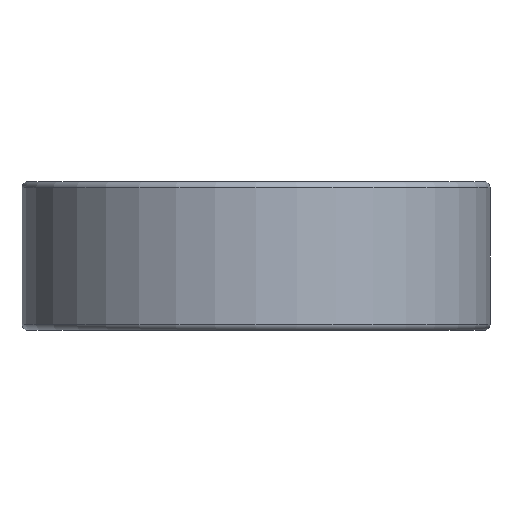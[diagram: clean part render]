
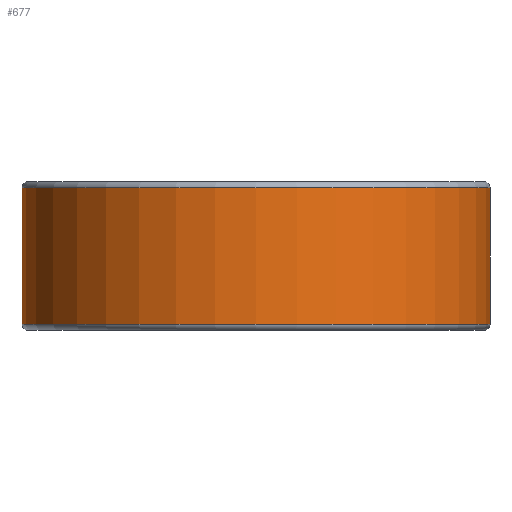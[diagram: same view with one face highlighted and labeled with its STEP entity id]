
A CAD part, front view. The second image highlights one B-rep face of the part: STEP entity #677.
In plain terms, the highlighted cylindrical face has radius 11 mm (diameter 22 mm), a full revolution.
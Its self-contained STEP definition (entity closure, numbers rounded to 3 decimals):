
#104=LINE('',#1029,#110);
#110=VECTOR('',#859,11.);
#116=CYLINDRICAL_SURFACE('',#746,11.);
#127=FACE_OUTER_BOUND('',#161,.T.);
#161=EDGE_LOOP('',(#464,#465,#466,#467,#468,#469));
#211=CIRCLE('',#742,11.);
#212=CIRCLE('',#743,11.);
#215=CIRCLE('',#747,11.);
#216=CIRCLE('',#748,11.);
#259=VERTEX_POINT('',#1018);
#260=VERTEX_POINT('',#1019);
#262=VERTEX_POINT('',#1026);
#263=VERTEX_POINT('',#1027);
#342=EDGE_CURVE('',#259,#260,#211,.T.);
#343=EDGE_CURVE('',#260,#259,#212,.T.);
#346=EDGE_CURVE('',#262,#263,#215,.T.);
#347=EDGE_CURVE('',#262,#260,#104,.T.);
#348=EDGE_CURVE('',#263,#262,#216,.T.);
#464=ORIENTED_EDGE('',*,*,#346,.F.);
#465=ORIENTED_EDGE('',*,*,#347,.T.);
#466=ORIENTED_EDGE('',*,*,#342,.F.);
#467=ORIENTED_EDGE('',*,*,#343,.F.);
#468=ORIENTED_EDGE('',*,*,#347,.F.);
#469=ORIENTED_EDGE('',*,*,#348,.F.);
#677=ADVANCED_FACE('',(#127),#116,.T.);
#742=AXIS2_PLACEMENT_3D('',#1020,#847,#848);
#743=AXIS2_PLACEMENT_3D('',#1021,#849,#850);
#746=AXIS2_PLACEMENT_3D('',#1025,#855,#856);
#747=AXIS2_PLACEMENT_3D('',#1028,#857,#858);
#748=AXIS2_PLACEMENT_3D('',#1030,#860,#861);
#847=DIRECTION('center_axis',(0.,0.,-1.));
#848=DIRECTION('ref_axis',(0.,-1.,0.));
#849=DIRECTION('center_axis',(0.,0.,-1.));
#850=DIRECTION('ref_axis',(0.,-1.,0.));
#855=DIRECTION('center_axis',(0.,0.,1.));
#856=DIRECTION('ref_axis',(0.,1.,0.));
#857=DIRECTION('center_axis',(0.,0.,1.));
#858=DIRECTION('ref_axis',(0.,-1.,0.));
#859=DIRECTION('',(0.,0.,-1.));
#860=DIRECTION('center_axis',(0.,0.,1.));
#861=DIRECTION('ref_axis',(0.,-1.,0.));
#1018=CARTESIAN_POINT('',(-11.,0.,0.3));
#1019=CARTESIAN_POINT('',(0.,-11.,0.3));
#1020=CARTESIAN_POINT('Origin',(0.,0.,0.3));
#1021=CARTESIAN_POINT('Origin',(0.,0.,0.3));
#1025=CARTESIAN_POINT('Origin',(0.,0.,3.5));
#1026=CARTESIAN_POINT('',(0.,-11.,6.7));
#1027=CARTESIAN_POINT('',(-11.,0.,6.7));
#1028=CARTESIAN_POINT('Origin',(0.,0.,6.7));
#1029=CARTESIAN_POINT('',(0.,-11.,3.5));
#1030=CARTESIAN_POINT('Origin',(0.,0.,6.7));
